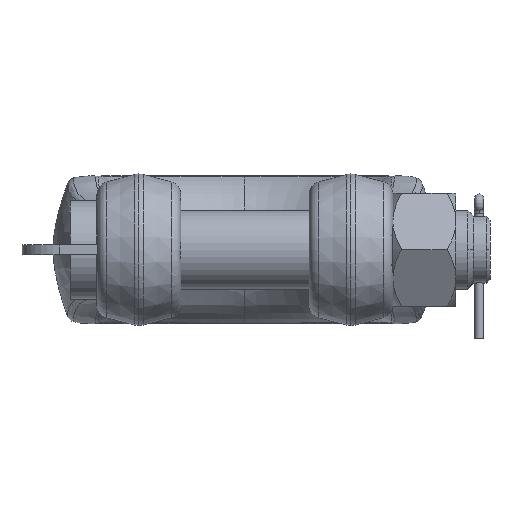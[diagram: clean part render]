
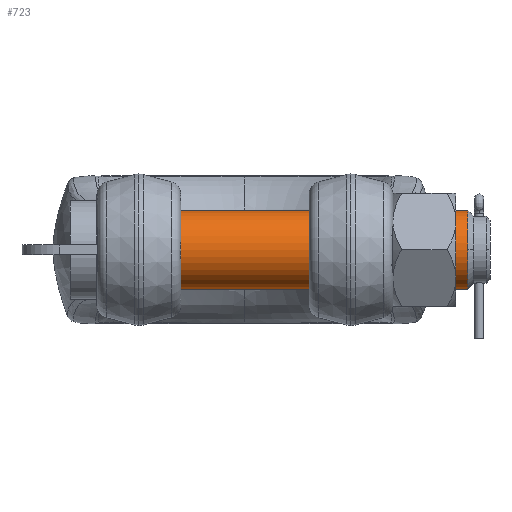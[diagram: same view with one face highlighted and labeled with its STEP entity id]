
A CAD part, front view. The second image highlights one B-rep face of the part: STEP entity #723.
In plain terms, the highlighted cylindrical face has radius 40 mm (diameter 80 mm), a partial arc.
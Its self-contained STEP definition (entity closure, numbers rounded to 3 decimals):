
#723=ADVANCED_FACE('',(#2046),#2047,.T.);
#2046=FACE_OUTER_BOUND('',#4071,.T.);
#2047=CYLINDRICAL_SURFACE('',#4072,40.0);
#4071=EDGE_LOOP('',(#53735,#53736,#53737,#53738,#53739));
#4072=AXIS2_PLACEMENT_3D('',#53740,#53741,#53742);
#53735=ORIENTED_EDGE('',*,*,#58751,.T.);
#53736=ORIENTED_EDGE('',*,*,#58761,.T.);
#53737=ORIENTED_EDGE('',*,*,#58795,.T.);
#53738=ORIENTED_EDGE('',*,*,#58753,.T.);
#53739=ORIENTED_EDGE('',*,*,#58747,.T.);
#53740=CARTESIAN_POINT('',(-150.0,0.,0.));
#53741=DIRECTION('',(-1.0,0.0,0.0));
#53742=DIRECTION('',(0.0,0.0,-1.0));
#58747=EDGE_CURVE('',#61049,#61046,#61050,.T.);
#58751=EDGE_CURVE('',#61046,#61055,#61056,.T.);
#58753=EDGE_CURVE('',#61058,#61049,#61059,.T.);
#58761=EDGE_CURVE('',#61055,#61070,#61072,.T.);
#58795=EDGE_CURVE('',#61070,#61058,#61119,.T.);
#61046=VERTEX_POINT('',#64406);
#61049=VERTEX_POINT('',#64420);
#61050=CIRCLE('',#64421,40.0);
#61055=VERTEX_POINT('',#64560);
#61056=LINE('',#64561,#64562);
#61058=VERTEX_POINT('',#64564);
#61059=LINE('',#64565,#64566);
#61070=VERTEX_POINT('',#64578);
#61072=CIRCLE('',#64581,40.0);
#61119=CIRCLE('',#64706,40.0);
#64406=CARTESIAN_POINT('',(-148.0,0.,-40.0));
#64420=CARTESIAN_POINT('',(-148.0,0.,40.0));
#64421=AXIS2_PLACEMENT_3D('',#105922,#105923,#105924);
#64560=CARTESIAN_POINT('',(226.0,0.,-40.0));
#64561=CARTESIAN_POINT('',(39.0,0.,-40.0));
#64562=VECTOR('',#105925,1.0);
#64564=CARTESIAN_POINT('',(226.0,0.,40.0));
#64565=CARTESIAN_POINT('',(39.0,0.,40.0));
#64566=VECTOR('',#105929,1.0);
#64578=CARTESIAN_POINT('',(226.0,-40.0,0.));
#64581=AXIS2_PLACEMENT_3D('',#105944,#105945,#105946);
#64706=AXIS2_PLACEMENT_3D('',#105991,#105992,#105993);
#105922=CARTESIAN_POINT('',(-148.0,0.,0.));
#105923=DIRECTION('',(1.0,0.0,0.0));
#105924=DIRECTION('',(0.0,0.0,-1.0));
#105925=DIRECTION('',(1.0,-0.0,-0.0));
#105929=DIRECTION('',(-1.0,0.0,0.0));
#105944=CARTESIAN_POINT('',(226.0,0.,0.));
#105945=DIRECTION('',(-1.0,0.0,0.0));
#105946=DIRECTION('',(0.0,0.0,-1.0));
#105991=CARTESIAN_POINT('',(226.0,0.,0.));
#105992=DIRECTION('',(-1.0,0.0,0.0));
#105993=DIRECTION('',(0.0,0.0,-1.0));
